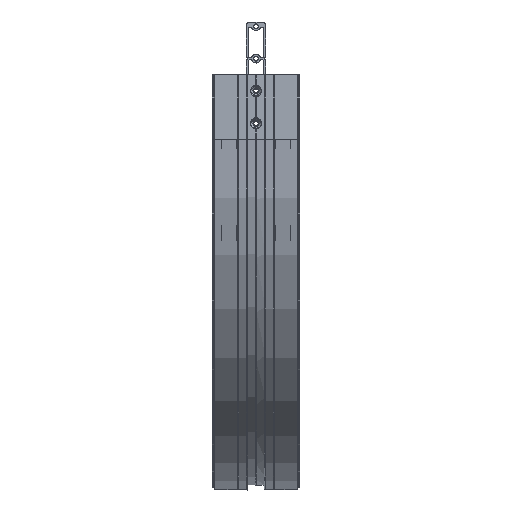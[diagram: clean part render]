
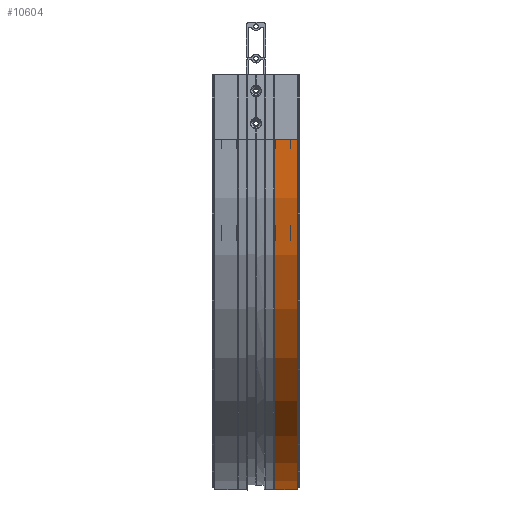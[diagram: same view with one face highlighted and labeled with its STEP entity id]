
A CAD part, left-side view. The second image highlights one B-rep face of the part: STEP entity #10604.
In plain terms, the highlighted cylindrical face has radius 543 mm (diameter 1086 mm), a partial arc.
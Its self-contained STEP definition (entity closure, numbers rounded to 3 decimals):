
#1679 = CARTESIAN_POINT ( 'NONE',  ( 883.959, -29.036, -483.959 ) ) ;
#1727 = CARTESIAN_POINT ( 'NONE',  ( -43., -29.036, -100. ) ) ;
#1971 = CARTESIAN_POINT ( 'NONE',  ( -43., -64., -100. ) ) ;
#2124 = CARTESIAN_POINT ( 'NONE',  ( 883.959, -64., -483.959 ) ) ;
#2722 = VERTEX_POINT ( 'NONE', #1971 ) ;
#2964 = VERTEX_POINT ( 'NONE', #1727 ) ;
#3012 = VERTEX_POINT ( 'NONE', #1679 ) ;
#3211 = VERTEX_POINT ( 'NONE', #2124 ) ;
#4042 = ORIENTED_EDGE ( 'NONE', *, *, #14176, .F. ) ;
#4211 = ORIENTED_EDGE ( 'NONE', *, *, #14198, .T. ) ;
#4221 = ORIENTED_EDGE ( 'NONE', *, *, #14179, .T. ) ;
#4375 = ORIENTED_EDGE ( 'NONE', *, *, #14193, .F. ) ;
#6596 = EDGE_LOOP ( 'NONE', ( #4042, #4221, #4211, #4375 ) ) ;
#7416 = AXIS2_PLACEMENT_3D ( 'NONE', #12677, #12676, #12674 ) ;
#7945 = AXIS2_PLACEMENT_3D ( 'NONE', #15982, #15983, #15984 ) ;
#7960 = AXIS2_PLACEMENT_3D ( 'NONE', #16041, #16042, #16043 ) ;
#10604 = ADVANCED_FACE ( 'NONE', ( #11554 ), #11555, .T. ) ;
#11554 = FACE_OUTER_BOUND ( 'NONE', #6596, .T. ) ;
#11555 = CYLINDRICAL_SURFACE ( 'NONE', #7416, 543. ) ;
#12674 = DIRECTION ( 'NONE',  ( 0., 0., 1. ) ) ;
#12676 = DIRECTION ( 'NONE',  ( 0., 1., 0. ) ) ;
#12677 = CARTESIAN_POINT ( 'NONE',  ( 500., 0., -100. ) ) ;
#14176 = EDGE_CURVE ( 'NONE', #3012, #2964, #17113, .T. ) ;
#14179 = EDGE_CURVE ( 'NONE', #3012, #3211, #17115, .T. ) ;
#14193 = EDGE_CURVE ( 'NONE', #2964, #2722, #17134, .T. ) ;
#14198 = EDGE_CURVE ( 'NONE', #3211, #2722, #17142, .T. ) ;
#15982 = CARTESIAN_POINT ( 'NONE',  ( 500., -29.036, -100. ) ) ;
#15983 = DIRECTION ( 'NONE',  ( 0., 1., 0. ) ) ;
#15984 = DIRECTION ( 'NONE',  ( 0., 0., 1. ) ) ;
#15991 = CARTESIAN_POINT ( 'NONE',  ( 883.959, -29.036, -483.959 ) ) ;
#15992 = DIRECTION ( 'NONE',  ( 0., -1., 0. ) ) ;
#16028 = CARTESIAN_POINT ( 'NONE',  ( -43., -29.036, -100. ) ) ;
#16029 = DIRECTION ( 'NONE',  ( 0., -1., 0. ) ) ;
#16041 = CARTESIAN_POINT ( 'NONE',  ( 500., -64., -100. ) ) ;
#16042 = DIRECTION ( 'NONE',  ( 0., 1., 0. ) ) ;
#16043 = DIRECTION ( 'NONE',  ( 0., 0., 1. ) ) ;
#17113 = CIRCLE ( 'NONE', #7945, 543. ) ;
#17115 = LINE ( 'NONE', #15991, #17117 ) ;
#17117 = VECTOR ( 'NONE', #15992, 1000. ) ;
#17134 = LINE ( 'NONE', #16028, #17136 ) ;
#17136 = VECTOR ( 'NONE', #16029, 1000. ) ;
#17142 = CIRCLE ( 'NONE', #7960, 543. ) ;
